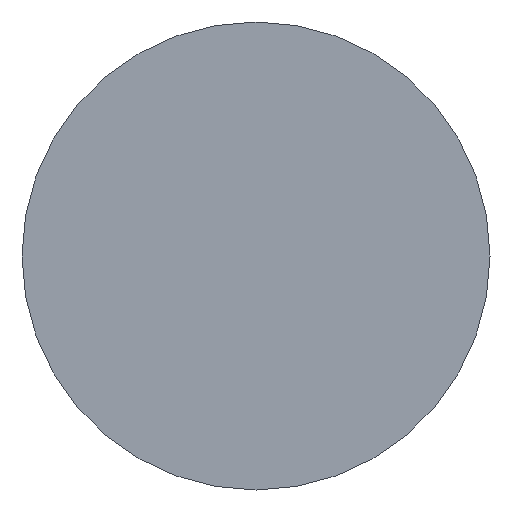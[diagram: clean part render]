
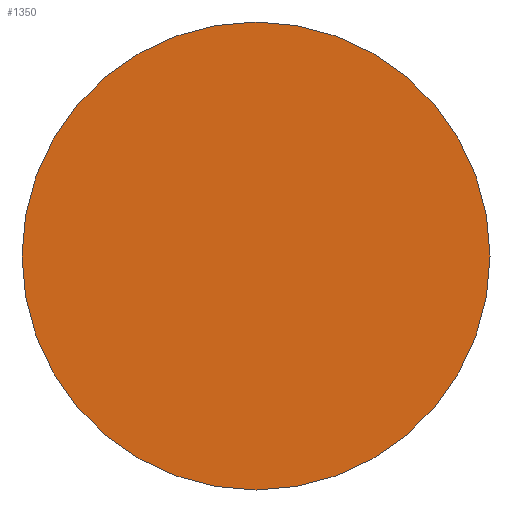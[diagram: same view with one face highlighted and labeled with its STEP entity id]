
A CAD part, front view. The second image highlights one B-rep face of the part: STEP entity #1350.
In plain terms, the highlighted planar face has unit normal (0, -1, 0).
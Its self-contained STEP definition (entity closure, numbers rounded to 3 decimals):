
#461 = EDGE_CURVE ( 'NONE', #5803, #5494, #4420, .T. ) ;
#668 = PLANE ( 'NONE',  #3133 ) ;
#907 = CARTESIAN_POINT ( 'NONE',  ( 0., 0., 20. ) ) ;
#922 = CARTESIAN_POINT ( 'NONE',  ( 0., 0., 0. ) ) ;
#1350 = ADVANCED_FACE ( 'NONE', ( #4634 ), #668, .T. ) ;
#1722 = AXIS2_PLACEMENT_3D ( 'NONE', #4073, #3480, #2875 ) ;
#2145 = AXIS2_PLACEMENT_3D ( 'NONE', #922, #3779, #3187 ) ;
#2491 = EDGE_CURVE ( 'NONE', #5494, #5803, #4241, .T. ) ;
#2875 = DIRECTION ( 'NONE',  ( 0., 0., -1. ) ) ;
#3133 = AXIS2_PLACEMENT_3D ( 'NONE', #5323, #4731, #4114 ) ;
#3187 = DIRECTION ( 'NONE',  ( 0., 0., -1. ) ) ;
#3427 = ORIENTED_EDGE ( 'NONE', *, *, #2491, .T. ) ;
#3480 = DIRECTION ( 'NONE',  ( 0., -1., 0. ) ) ;
#3597 = CARTESIAN_POINT ( 'NONE',  ( 0., 0., -20. ) ) ;
#3779 = DIRECTION ( 'NONE',  ( 0., -1., 0. ) ) ;
#4073 = CARTESIAN_POINT ( 'NONE',  ( 0., 0., 0. ) ) ;
#4114 = DIRECTION ( 'NONE',  ( 0., 0., -1. ) ) ;
#4129 = EDGE_LOOP ( 'NONE', ( #4434, #3427 ) ) ;
#4241 = CIRCLE ( 'NONE', #2145, 20. ) ;
#4420 = CIRCLE ( 'NONE', #1722, 20. ) ;
#4434 = ORIENTED_EDGE ( 'NONE', *, *, #461, .T. ) ;
#4634 = FACE_OUTER_BOUND ( 'NONE', #4129, .T. ) ;
#4731 = DIRECTION ( 'NONE',  ( 0., -1., 0. ) ) ;
#5323 = CARTESIAN_POINT ( 'NONE',  ( 20., 0., 0. ) ) ;
#5494 = VERTEX_POINT ( 'NONE', #907 ) ;
#5803 = VERTEX_POINT ( 'NONE', #3597 ) ;
